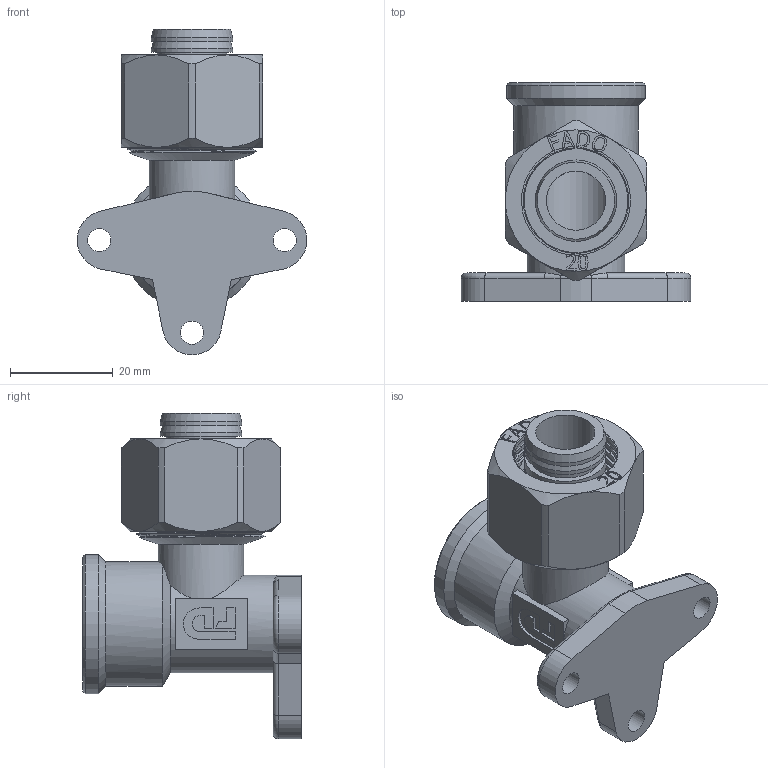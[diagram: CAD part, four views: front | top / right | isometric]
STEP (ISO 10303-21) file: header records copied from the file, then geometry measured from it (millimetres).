
FILE_DESCRIPTION(/* description */ (''),/* implementation_level */ '2;1');
FILE_NAME(/* name */ 'C:\Users\Doom\Desktop\Фадотех\Обжим\RFU40 20X12 21.08.2020\RFU40 20X12 21.08.2020.stp',/* time_stamp */ '2022-06-01T17:34:44+03:00',/* author */ ('Doom'),/* organization */ (''),/* preprocessor_version */ 'ST-DEVELOPER v18',/* originating_system */ 'Autodesk Inventor 2020',/* authorisation */ '');
FILE_SCHEMA (('AUTOMOTIVE_DESIGN { 1 0 10303 214 3 1 1 }'));
Products named in the file (5): RFU40 20X12 21.08.2020; RFU30 16X12F 21.08.2020; FADO MC Nut-20 15.02.2020; FADO MC Socket-20 15.02.2020; Olive 20 15.02.2020
Assembly tree (4 placements, depth 2):
  RFU40 20X12 21.08.2020
    RFU30 16X12F 21.08.2020
    FADO MC Nut-20 15.02.2020
    FADO MC Socket-20 15.02.2020
    Olive 20 15.02.2020
Bounding box: 44.62 x 42.5 x 63.3 mm (x, y, z)
Volume: 21855.2 mm3; surface area: 25371.5 mm2
Topology: 7 solids, 7 shells, 597 faces, 1632 edges, 1089 vertices
Faces by surface type: bspline 266, plane 183, cylinder 109, cone 32, torus 7
Full cylindrical faces by diameter (mm): 4.5 x3, 11.5 x1, 11.7 x1, 13.5 x1, 13.531 x2, 14.5 x1, 15.802 x5, 16.6 x1, 17.391 x1, 17.5 x1, 18 x1, 18.26 x9, 19 x1, 20.5 x1, 20.95 x2, 22.776 x8, 23 x1, 23.517 x2, 24.1 x1, 24.2 x1, 25 x11, 27 x1
Entity records: 36939 total; most frequent: CARTESIAN_POINT 23414, ORIENTED_EDGE 3246, DIRECTION 1963, EDGE_CURVE 1623, VERTEX_POINT 1085, EDGE_LOOP 660, LINE 657, VECTOR 657
